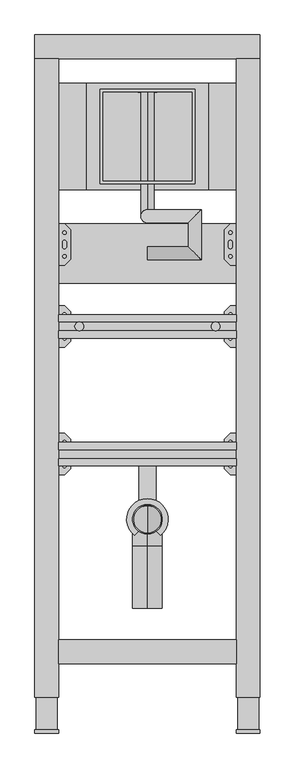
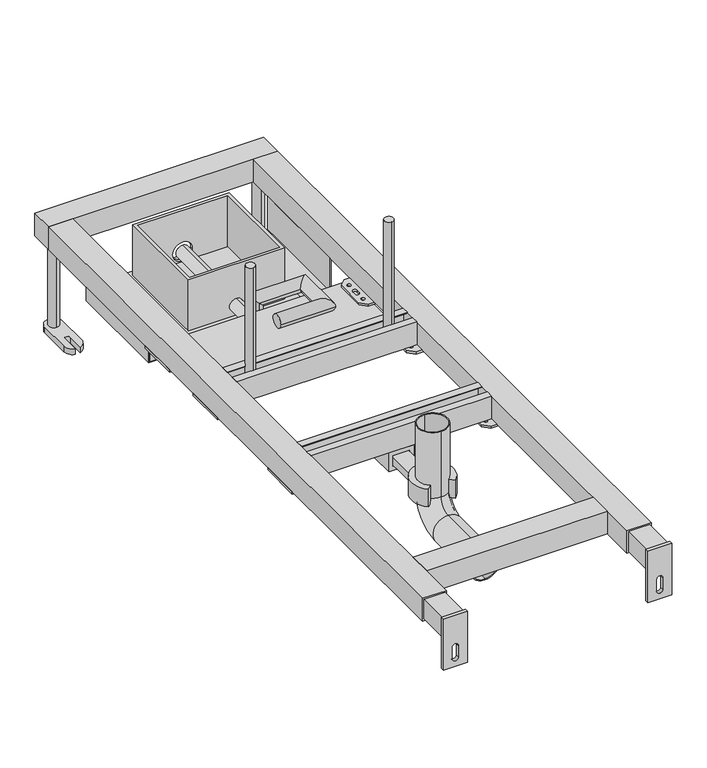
"""IFC4 building model written with IfcOpenShell, lengths in millimetres: flow terminal geometry, LIV-FIX UR MECH. PL : LIV-FIX UR MECH. PL."""

from ifc_helpers import new_model, si_unit, point, frame, frame_2d, origin, origin_with_axes, place, context, project, spatial, polyline, circle_curve, ellipse_curve, trimmed, segment, composite_curve, outline, extrude, source, transform, mapped, element, save
from ifc_brep_helpers import plane_surface, cylinder_surface, revolved_surface, advanced_brep


def flow_terminal_bfc678a2(model_context):
    return source(origin(), model_context, "Body", "SolidModel", [
        advanced_brep(
        [(0.0, 797.0, 167.378088), (0.0, 819.0, 167.378088), (91.0, 797.0, 167.378088), (69.0, 819.0, 167.378088), (91.0, 881.5546816, 167.378088), (69.0, 859.5546816, 167.378088), (0.0, 881.5546816, 167.378088), (0.0, 859.5546816, 167.378088), (0.0, 881.5546816, 135.5), (0.0, 859.5546816, 113.5), (0.0, 1079.85, 135.5), (0.0, 1079.85, 113.5)],
        [
            (0, 1, circle_curve(frame((0.0, 808.0, 167.378088), z_axis=(-1.0, 0.0, 0.0), x_axis=(0.0, 1.0, 0.0)), 11.0)),
            (1, 0, circle_curve(frame((0.0, 808.0, 167.378088), z_axis=(-1.0, 0.0, 0.0), x_axis=(0.0, 1.0, 0.0)), 11.0)),
            (0, 2),
            (2, 3, ellipse_curve(frame((80.0, 808.0, 167.378088), z_axis=(-0.7071067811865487, -0.7071067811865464, 0.0), x_axis=(-0.7071067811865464, 0.7071067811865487, 0.0)), 15.5563492, 11.0)),
            (3, 1),
            (3, 2, ellipse_curve(frame((80.0, 808.0, 167.378088), z_axis=(-0.7071067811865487, -0.7071067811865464, 0.0), x_axis=(-0.7071067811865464, 0.7071067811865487, 0.0)), 15.5563492, 11.0)),
            (2, 4),
            (4, 5, ellipse_curve(frame((80.0, 870.5546816, 167.378088), z_axis=(0.7071067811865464, -0.7071067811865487, 0.0), x_axis=(-0.7071067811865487, -0.7071067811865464, 0.0)), 15.5563492, 11.0)),
            (5, 3),
            (5, 4, ellipse_curve(frame((80.0, 870.5546816, 167.378088), z_axis=(0.7071067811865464, -0.7071067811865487, 0.0), x_axis=(-0.7071067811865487, -0.7071067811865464, 0.0)), 15.5563492, 11.0)),
            (4, 6),
            (6, 7, ellipse_curve(frame((0.0, 870.5546816, 167.378088), z_axis=(0.7071067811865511, 0.0, 0.7071067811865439), x_axis=(0.7071067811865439, 0.0, -0.7071067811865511)), 15.5563492, 11.0)),
            (7, 5),
            (7, 6, ellipse_curve(frame((0.0, 870.5546816, 167.378088), z_axis=(0.7071067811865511, 0.0, 0.7071067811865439), x_axis=(0.7071067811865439, 0.0, -0.7071067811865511)), 15.5563492, 11.0)),
            (6, 8),
            (8, 9, ellipse_curve(frame((0.0, 870.5546816, 124.5), z_axis=(0.0, -0.7071067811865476, 0.7071067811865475), x_axis=(0.0, 0.7071067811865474, 0.7071067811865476)), 15.5563492, 11.0)),
            (9, 7),
            (9, 8, ellipse_curve(frame((0.0, 870.5546816, 124.5), z_axis=(0.0, -0.7071067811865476, 0.7071067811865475), x_axis=(0.0, 0.7071067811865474, 0.7071067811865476)), 15.5563492, 11.0)),
            (10, 11, circle_curve(frame((0.0, 1079.85, 124.5), z_axis=(0.0, 1.0, 0.0), x_axis=(0.0, 0.0, -1.0)), 11.0)),
            (11, 10, circle_curve(frame((0.0, 1079.85, 124.5), z_axis=(0.0, 1.0, 0.0), x_axis=(0.0, 0.0, -1.0)), 11.0)),
            (8, 10),
            (11, 9),
        ],
        [
            plane_surface(frame((0.0, 808.0, 156.378088), z_axis=(-1.0, 0.0, 0.0), x_axis=(0.0, 1.0, 0.0))),
            cylinder_surface(frame((0.0, 808.0, 167.378088), z_axis=(-1.0, 0.0, 0.0), x_axis=(0.0, 1.0, 0.0)), 11.0),
            cylinder_surface(frame((80.0, 808.0, 167.378088), z_axis=(0.0, -1.0, 0.0), x_axis=(-1.0, 0.0, 0.0)), 11.0),
            cylinder_surface(frame((80.0, 870.5546816, 167.378088), z_axis=(1.0, 0.0, 0.0), x_axis=(0.0, -1.0, 0.0)), 11.0),
            cylinder_surface(frame((0.0, 870.5546816, 167.378088), z_axis=(0.0, 0.0, 1.0), x_axis=(0.0, -1.0, 0.0)), 11.0),
            plane_surface(frame((-11.0, 1079.85, 124.5), z_axis=(0.0, 1.0, 0.0), x_axis=(0.0, 0.0, 1.0))),
            cylinder_surface(frame((0.0, 870.5546816, 124.5), z_axis=(0.0, -1.0, 0.0), x_axis=(0.0, 0.0, -1.0)), 11.0),
        ],
        [
            (0, [[1, 2]]),
            (1, [[-1, 3, 4, 5]]),
            (1, [[-2, -5, 6, -3]]),
            (2, [[-4, 7, 8, 9]]),
            (2, [[-6, -9, 10, -7]]),
            (3, [[-8, 11, 12, 13]]),
            (3, [[-10, -13, 14, -11]]),
            (4, [[-12, 15, 16, 17]]),
            (4, [[-14, -17, 18, -15]]),
            (5, [[19, 20]]),
            (6, [[-16, 21, -20, 22]]),
            (6, [[-18, -22, -19, -21]]),
        ],
    ),
        extrude(outline(polyline([(102.4676142, 1095.0), (102.4676142, 915.0), (-102.5323858, 915.0), (-102.5323858, 1095.0), (102.4676142, 1095.0)])), frame((0.0, 0.0, 101.5), z_axis=(0.0, 0.0, 1.0), x_axis=(1.0, 0.0, 0.0)), (0.0, 0.0, 1.0), 5.0),
        advanced_brep(
        [(-79.85, 1084.85, 196.5), (-79.85, 925.15, 196.5), (79.85, 925.15, 196.5), (79.85, 1084.85, 196.5), (74.85, 1079.85, 196.5), (74.85, 930.15, 196.5), (-74.85, 930.15, 196.5), (-74.85, 1079.85, 196.5), (-79.85, 1084.85, 101.5), (79.85, 1084.85, 101.5), (79.85, 925.15, 101.5), (-79.85, 925.15, 101.5), (74.85, 1079.85, 101.5), (-74.85, 1079.85, 101.5), (-74.85, 930.15, 101.5), (74.85, 930.15, 101.5), (11.0, 930.15, 124.5), (-11.0, 930.15, 124.5), (-16.25, 1079.85, 124.5), (16.25, 1079.85, 124.5), (-11.0, 925.15, 124.5), (11.0, 925.15, 124.5), (16.25, 1084.85, 124.5), (-16.25, 1084.85, 124.5)],
        [
            (0, 1),
            (1, 2),
            (2, 3),
            (3, 0),
            (4, 5),
            (5, 6),
            (6, 7),
            (7, 4),
            (8, 9),
            (9, 10),
            (10, 11),
            (11, 8),
            (12, 13),
            (13, 14),
            (14, 15),
            (15, 12),
            (4, 12),
            (15, 5),
            (14, 6),
            (16, 17, circle_curve(frame((0.0, 930.15, 124.5), z_axis=(0.0, -1.0, 0.0), x_axis=(1.0, 0.0, 0.0)), 11.0)),
            (17, 16, circle_curve(frame((0.0, 930.15, 124.5), z_axis=(0.0, -1.0, 0.0), x_axis=(1.0, 0.0, 0.0)), 11.0)),
            (13, 7),
            (18, 19, circle_curve(frame((0.0, 1079.85, 124.5), z_axis=(0.0, 1.0, 0.0), x_axis=(-1.0, 0.0, 0.0)), 16.25)),
            (19, 18, circle_curve(frame((0.0, 1079.85, 124.5), z_axis=(0.0, 1.0, 0.0), x_axis=(-1.0, 0.0, 0.0)), 16.25)),
            (0, 8),
            (11, 1),
            (10, 2),
            (20, 21, circle_curve(frame((0.0, 925.15, 124.5), z_axis=(0.0, 1.0, 0.0), x_axis=(1.0, 0.0, 0.0)), 11.0)),
            (21, 20, circle_curve(frame((0.0, 925.15, 124.5), z_axis=(0.0, 1.0, 0.0), x_axis=(1.0, 0.0, 0.0)), 11.0)),
            (9, 3),
            (22, 23, circle_curve(frame((0.0, 1084.85, 124.5), z_axis=(0.0, -1.0, 0.0), x_axis=(-1.0, 0.0, 0.0)), 16.25)),
            (23, 22, circle_curve(frame((0.0, 1084.85, 124.5), z_axis=(0.0, -1.0, 0.0), x_axis=(-1.0, 0.0, 0.0)), 16.25)),
            (22, 19),
            (18, 23),
            (20, 17),
            (16, 21),
        ],
        [
            plane_surface(frame((74.85, 1079.85, 196.5), z_axis=(0.0, 0.0, 1.0), x_axis=(0.0, -1.0, 0.0))),
            plane_surface(frame((74.85, 1079.85, 101.5), z_axis=(0.0, 0.0, -1.0), x_axis=(0.0, 1.0, 0.0))),
            plane_surface(frame((74.85, 1079.85, 196.5), z_axis=(-1.0, 0.0, 0.0), x_axis=(0.0, 0.0, -1.0))),
            plane_surface(frame((74.85, 930.15, 196.5), z_axis=(0.0, 1.0, 0.0), x_axis=(0.0, 0.0, -1.0))),
            plane_surface(frame((-74.85, 930.15, 196.5), z_axis=(1.0, 0.0, 0.0), x_axis=(0.0, 0.0, -1.0))),
            plane_surface(frame((-74.85, 1079.85, 196.5), z_axis=(0.0, -1.0, 0.0), x_axis=(0.0, 0.0, -1.0))),
            plane_surface(frame((-79.85, 1084.85, 196.5), z_axis=(-1.0, 0.0, 0.0), x_axis=(0.0, 0.0, -1.0))),
            plane_surface(frame((-79.85, 925.15, 196.5), z_axis=(0.0, -1.0, 0.0), x_axis=(0.0, 0.0, -1.0))),
            plane_surface(frame((79.85, 925.15, 196.5), z_axis=(1.0, 0.0, 0.0), x_axis=(0.0, 0.0, -1.0))),
            plane_surface(frame((79.85, 1084.85, 196.5), z_axis=(0.0, 1.0, 0.0), x_axis=(0.0, 0.0, -1.0))),
            revolved_surface(polyline([(-16.25, 1079.85, 124.5), (-16.25, 1084.85, 124.5)]), (0.0, 1084.85, 124.5), (0.0, -1.0, 0.0)),
            revolved_surface(polyline([(11.0, 930.15, 124.5), (11.0, 925.15, 124.5)]), (0.0, 925.15, 124.5), (0.0, 1.0, 0.0)),
        ],
        [
            (0, [[1, 2, 3, 4], [5, 6, 7, 8]]),
            (1, [[9, 10, 11, 12], [13, 14, 15, 16]]),
            (2, [[-5, 17, -16, 18]]),
            (3, [[-6, -18, -15, 19], [20, 21]]),
            (4, [[-7, -19, -14, 22]]),
            (5, [[-8, -22, -13, -17], [23, 24]]),
            (6, [[-1, 25, -12, 26]]),
            (7, [[-2, -26, -11, 27], [28, 29]]),
            (8, [[-3, -27, -10, 30]]),
            (9, [[-4, -30, -9, -25], [31, 32]]),
            (10, [[33, -23, 34, -31]]),
            (10, [[-33, -32, -34, -24]]),
            (11, [[35, -20, 36, -28]]),
            (11, [[-35, -29, -36, -21]]),
        ],
    ),
        extrude(outline(composite_curve([segment(trimmed(circle_curve(frame_2d((-115.0, 685.0)), 7.5154833), [point((-115.0, 692.5154833))], [point((-115.0, 677.4845167))], False, "CARTESIAN"), True, "CONTINUOUS"), segment(trimmed(circle_curve(frame_2d((-115.0, 685.0)), 7.5154833), [point((-115.0, 677.4845167))], [point((-115.0, 692.5154833))], False, "CARTESIAN"), True, "CONTINUOUS")], self_intersect=False)), frame((0.0, 0.0, 180.0), z_axis=(0.0, 0.0, 1.0), x_axis=(1.0, 0.0, 0.0)), (0.0, 0.0, 1.0), 200.0),
        extrude(outline(composite_curve([segment(trimmed(circle_curve(frame_2d((115.0, 685.0)), 7.5154833), [point((115.0, 692.5154833))], [point((115.0, 677.4845167))], False, "CARTESIAN"), True, "CONTINUOUS"), segment(trimmed(circle_curve(frame_2d((115.0, 685.0)), 7.5154833), [point((115.0, 677.4845167))], [point((115.0, 692.5154833))], False, "CARTESIAN"), True, "CONTINUOUS")], self_intersect=False)), frame((0.0, 0.0, 180.0), z_axis=(0.0, 0.0, 1.0), x_axis=(1.0, 0.0, 0.0)), (0.0, 0.0, 1.0), 200.0),
        extrude(outline(polyline([(150.0, 1095.0), (150.0, 915.0), (-150.0, 915.0), (-150.0, 1095.0), (150.0, 1095.0)])), frame((0.0, 0.0, 83.5), z_axis=(0.0, 0.0, 1.0), x_axis=(1.0, 0.0, 0.0)), (0.0, 0.0, 1.0), 18.0),
        extrude(outline(polyline([(160.0, 185.0), (160.0, 150.0), (83.5, 150.0), (83.5, 123.5), (82.0, 123.5), (82.0, 151.5), (158.5, 151.5), (158.5, 185.0), (160.0, 185.0)])), frame((0.0, 915.0, 0.0), z_axis=(0.0, 1.0, 0.0), x_axis=(0.0, 0.0, 1.0)), (0.0, 0.0, 1.0), 180.0),
        extrude(outline(polyline([(160.0, -185.0), (158.5, -185.0), (158.5, -151.5), (82.0, -151.5), (82.0, -123.5), (83.5, -123.5), (83.5, -150.0), (160.0, -150.0), (160.0, -185.0)])), frame((0.0, 915.0, 0.0), z_axis=(0.0, 1.0, 0.0), x_axis=(0.0, 0.0, 1.0)), (0.0, 0.0, 1.0), 180.0),
        extrude(outline(polyline([(665.0, 200.0), (677.4845167, 200.0), (677.4845167, 198.5), (666.5, 198.5), (666.5, 161.5), (703.5, 161.5), (703.5, 198.5), (692.5154833, 198.5), (692.5154833, 200.0), (705.0, 200.0), (705.0, 160.0), (665.0, 160.0), (665.0, 200.0)])), frame((-150.0, 0.0, 0.0), z_axis=(1.0, 0.0, 0.0), x_axis=(0.0, 1.0, 0.0)), (0.0, 0.0, 1.0), 300.0),
        extrude(outline(polyline([(140.0, 650.0), (130.0, 660.0), (130.0, 710.0), (140.0, 720.0), (190.0, 720.0), (190.0, 650.0), (140.0, 650.0)]), holes=[composite_curve([segment(trimmed(circle_curve(frame_2d((175.0, 685.0)), 4.5), [point((175.0, 680.5))], [point((175.0, 689.5))], True, "CARTESIAN"), True, "CONTINUOUS"), segment(trimmed(circle_curve(frame_2d((175.0, 685.0)), 4.5), [point((175.0, 689.5))], [point((175.0, 680.5))], True, "CARTESIAN"), True, "CONTINUOUS")], self_intersect=False), composite_curve([segment(trimmed(circle_curve(frame_2d((175.0, 705.0)), 4.5), [point((175.0, 700.5))], [point((175.0, 709.5))], True, "CARTESIAN"), True, "CONTINUOUS"), segment(trimmed(circle_curve(frame_2d((175.0, 705.0)), 4.5), [point((175.0, 709.5))], [point((175.0, 700.5))], True, "CARTESIAN"), True, "CONTINUOUS")], self_intersect=False), composite_curve([segment(trimmed(circle_curve(frame_2d((175.0, 665.0)), 4.5), [point((175.0, 660.5))], [point((175.0, 669.5))], True, "CARTESIAN"), True, "CONTINUOUS"), segment(trimmed(circle_curve(frame_2d((175.0, 665.0)), 4.5), [point((175.0, 669.5))], [point((175.0, 660.5))], True, "CARTESIAN"), True, "CONTINUOUS")], self_intersect=False), composite_curve([segment(trimmed(circle_curve(frame_2d((140.0, 705.0)), 2.9795218), [point((140.0, 702.0204782))], [point((140.0, 707.9795218))], True, "CARTESIAN"), True, "CONTINUOUS"), segment(trimmed(circle_curve(frame_2d((140.0, 705.0)), 2.9795218), [point((140.0, 707.9795218))], [point((140.0, 702.0204782))], True, "CARTESIAN"), True, "CONTINUOUS")], self_intersect=False), composite_curve([segment(trimmed(circle_curve(frame_2d((140.0, 665.0)), 2.9795218), [point((140.0, 662.0204782))], [point((140.0, 667.9795218))], True, "CARTESIAN"), True, "CONTINUOUS"), segment(trimmed(circle_curve(frame_2d((140.0, 665.0)), 2.9795218), [point((140.0, 667.9795218))], [point((140.0, 662.0204782))], True, "CARTESIAN"), True, "CONTINUOUS")], self_intersect=False), composite_curve([segment(trimmed(circle_curve(frame_2d((140.0, 688.5)), 3.5), [point((143.5, 688.5))], [point((136.5, 688.5))], True, "CARTESIAN"), True, "CONTINUOUS"), segment(polyline([(136.5, 688.5), (136.5, 681.5)]), True, "CONTINUOUS"), segment(trimmed(circle_curve(frame_2d((140.0, 681.5)), 3.5), [point((136.5, 681.5))], [point((143.5, 681.5))], True, "CARTESIAN"), True, "CONTINUOUS"), segment(polyline([(143.5, 681.5), (143.5, 688.5)]), True, "CONTINUOUS")], self_intersect=False)]), frame((0.0, 0.0, 156.0), z_axis=(0.0, 0.0, 1.0), x_axis=(1.0, 0.0, 0.0)), (0.0, 0.0, 1.0), 4.0),
        extrude(outline(polyline([(-140.0, 650.0), (-190.0, 650.0), (-190.0, 720.0), (-140.0, 720.0), (-130.0, 710.0), (-130.0, 660.0), (-140.0, 650.0)]), holes=[composite_curve([segment(trimmed(circle_curve(frame_2d((-175.0, 685.0)), 4.5), [point((-175.0, 680.5))], [point((-175.0, 689.5))], True, "CARTESIAN"), True, "CONTINUOUS"), segment(trimmed(circle_curve(frame_2d((-175.0, 685.0)), 4.5), [point((-175.0, 689.5))], [point((-175.0, 680.5))], True, "CARTESIAN"), True, "CONTINUOUS")], self_intersect=False), composite_curve([segment(trimmed(circle_curve(frame_2d((-175.0, 705.0)), 4.5), [point((-175.0, 700.5))], [point((-175.0, 709.5))], True, "CARTESIAN"), True, "CONTINUOUS"), segment(trimmed(circle_curve(frame_2d((-175.0, 705.0)), 4.5), [point((-175.0, 709.5))], [point((-175.0, 700.5))], True, "CARTESIAN"), True, "CONTINUOUS")], self_intersect=False), composite_curve([segment(trimmed(circle_curve(frame_2d((-175.0, 665.0)), 4.5), [point((-175.0, 660.5))], [point((-175.0, 669.5))], True, "CARTESIAN"), True, "CONTINUOUS"), segment(trimmed(circle_curve(frame_2d((-175.0, 665.0)), 4.5), [point((-175.0, 669.5))], [point((-175.0, 660.5))], True, "CARTESIAN"), True, "CONTINUOUS")], self_intersect=False), composite_curve([segment(trimmed(circle_curve(frame_2d((-140.0, 705.0)), 2.9795218), [point((-140.0, 702.0204782))], [point((-140.0, 707.9795218))], True, "CARTESIAN"), True, "CONTINUOUS"), segment(trimmed(circle_curve(frame_2d((-140.0, 705.0)), 2.9795218), [point((-140.0, 707.9795218))], [point((-140.0, 702.0204782))], True, "CARTESIAN"), True, "CONTINUOUS")], self_intersect=False), composite_curve([segment(trimmed(circle_curve(frame_2d((-140.0, 665.0)), 2.9795218), [point((-140.0, 662.0204782))], [point((-140.0, 667.9795218))], True, "CARTESIAN"), True, "CONTINUOUS"), segment(trimmed(circle_curve(frame_2d((-140.0, 665.0)), 2.9795218), [point((-140.0, 667.9795218))], [point((-140.0, 662.0204782))], True, "CARTESIAN"), True, "CONTINUOUS")], self_intersect=False), composite_curve([segment(polyline([(-143.5, 688.5), (-143.5, 681.5)]), True, "CONTINUOUS"), segment(trimmed(circle_curve(frame_2d((-140.0, 681.5)), 3.5), [point((-143.5, 681.5))], [point((-136.5, 681.5))], True, "CARTESIAN"), True, "CONTINUOUS"), segment(polyline([(-136.5, 681.5), (-136.5, 688.5)]), True, "CONTINUOUS"), segment(trimmed(circle_curve(frame_2d((-140.0, 688.5)), 3.5), [point((-136.5, 688.5))], [point((-143.5, 688.5))], True, "CARTESIAN"), True, "CONTINUOUS")], self_intersect=False)]), frame((0.0, 0.0, 156.0), z_axis=(0.0, 0.0, 1.0), x_axis=(1.0, 0.0, 0.0)), (0.0, 0.0, 1.0), 4.0),
        extrude(outline(polyline([(150.0, 858.0), (150.0, 758.0), (-150.0, 758.0), (-150.0, 858.0), (150.0, 858.0)])), frame((0.0, 0.0, 138.0), z_axis=(0.0, 0.0, 1.0), x_axis=(1.0, 0.0, 0.0)), (0.0, 0.0, 1.0), 18.0),
        advanced_brep(
        [(-14.0, 490.0, 136.5), (-14.0, 490.0, 150.0), (14.0, 490.0, 150.0), (14.0, 490.0, 136.5), (14.0, 392.0780299, 136.5), (22.1922786, 332.9352116, 136.5), (15.0727332, 340.0547571, 136.5), (-15.0727332, 340.0547571, 136.5), (-22.1922786, 332.9352116, 136.5), (-14.0, 392.0780299, 136.5), (14.0, 392.0780299, 150.0), (-14.0, 392.0780299, 150.0), (0.0, 395.0, 150.0), (15.0727332, 340.0547571, 167.5), (22.1922786, 332.9352116, 167.5), (0.0, 395.0, 167.5), (-22.1922786, 332.9352116, 167.5), (-15.0727332, 340.0547571, 167.5)],
        [
            (0, 1),
            (1, 2),
            (2, 3),
            (3, 0),
            (3, 4),
            (4, 5, circle_curve(frame((0.0, 360.0, 136.5), z_axis=(0.0, 0.0, -1.0), x_axis=(0.0, -1.0, 0.0)), 35.0)),
            (5, 6),
            (6, 7, circle_curve(frame((0.0, 360.0, 136.5), z_axis=(0.0, 0.0, 1.0), x_axis=(0.0, -1.0, 0.0)), 25.0)),
            (7, 8),
            (8, 9, circle_curve(frame((0.0, 360.0, 136.5), z_axis=(0.0, 0.0, -1.0), x_axis=(0.0, -1.0, 0.0)), 35.0)),
            (9, 0),
            (2, 10),
            (10, 4),
            (1, 11),
            (11, 12, circle_curve(frame((0.0, 360.0, 150.0), z_axis=(0.0, 0.0, -1.0), x_axis=(0.0, -1.0, 0.0)), 35.0)),
            (12, 10, circle_curve(frame((0.0, 360.0, 150.0), z_axis=(0.0, 0.0, -1.0), x_axis=(0.0, -1.0, 0.0)), 35.0)),
            (9, 11),
            (13, 14),
            (14, 15, circle_curve(frame((0.0, 360.0, 167.5), z_axis=(0.0, 0.0, 1.0), x_axis=(0.0, -1.0, 0.0)), 35.0)),
            (15, 16, circle_curve(frame((0.0, 360.0, 167.5), z_axis=(0.0, 0.0, 1.0), x_axis=(0.0, -1.0, 0.0)), 35.0)),
            (16, 17),
            (17, 13, circle_curve(frame((0.0, 360.0, 167.5), z_axis=(0.0, 0.0, -1.0), x_axis=(0.0, -1.0, 0.0)), 25.0)),
            (17, 7),
            (6, 13),
            (16, 8),
            (15, 12),
            (14, 5),
        ],
        [
            plane_surface(frame((-14.0, 490.0, 136.5), z_axis=(0.0, 1.0, 0.0), x_axis=(0.0, 0.0, 1.0))),
            plane_surface(frame((14.0, 490.0, 136.5), z_axis=(0.0, 0.0, -1.0), x_axis=(0.0, -1.0, 0.0))),
            plane_surface(frame((14.0, 490.0, 150.0), z_axis=(1.0, 0.0, 0.0), x_axis=(0.0, -1.0, 0.0))),
            plane_surface(frame((-14.0, 490.0, 150.0), z_axis=(0.0, 0.0, 1.0), x_axis=(0.0, -1.0, 0.0))),
            plane_surface(frame((-14.0, 490.0, 136.5), z_axis=(-1.0, 0.0, 0.0), x_axis=(0.0, -1.0, 0.0))),
            plane_surface(frame((0.0, 335.0, 167.5), z_axis=(0.0, 0.0, 1.0), x_axis=(-1.0, 0.0, 0.0))),
            revolved_surface(polyline([(0.0, 335.0, 167.5), (0.0, 335.0, 136.5)]), (0.0, 360.0, 167.5), (0.0, 0.0, 1.0)),
            plane_surface(frame((-15.0727332, 340.0547571, 136.5), z_axis=(0.7071067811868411, -0.707106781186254, 0.0), x_axis=(0.0, 0.0, 1.0))),
            cylinder_surface(frame((0.0, 360.0, 167.5), z_axis=(0.0, 0.0, -1.0), x_axis=(0.0, -1.0, 0.0)), 35.0),
            plane_surface(frame((22.1922786, 332.9352116, 136.5), z_axis=(-0.7071067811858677, -0.7071067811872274, 0.0), x_axis=(0.0, 0.0, 1.0))),
        ],
        [
            (0, [[1, 2, 3, 4]]),
            (1, [[-4, 5, 6, 7, 8, 9, 10, 11]]),
            (2, [[-3, 12, 13, -5]]),
            (3, [[-2, 14, 15, 16, -12]]),
            (4, [[-1, -11, 17, -14]]),
            (5, [[18, 19, 20, 21, 22]]),
            (6, [[-22, 23, -8, 24]]),
            (7, [[-21, 25, -9, -23]]),
            (8, [[-20, 26, -15, -17, -10, -25]]),
            (8, [[-19, 27, -6, -13, -16, -26]]),
            (9, [[-18, -24, -7, -27]]),
        ],
    ),
        extrude(outline(polyline([(450.0, 200.0), (462.4845167, 200.0), (462.4845167, 198.5), (451.5, 198.5), (451.5, 161.5), (488.5, 161.5), (488.5, 198.5), (477.5154833, 198.5), (477.5154833, 200.0), (490.0, 200.0), (490.0, 160.0), (450.0, 160.0), (450.0, 200.0)])), frame((-150.0, 0.0, 0.0), z_axis=(1.0, 0.0, 0.0), x_axis=(0.0, 1.0, 0.0)), (0.0, 0.0, 1.0), 300.0),
        extrude(outline(polyline([(140.0, 788.0), (130.0, 798.0), (130.0, 848.0), (140.0, 858.0), (190.0, 858.0), (190.0, 788.0), (140.0, 788.0)]), holes=[composite_curve([segment(trimmed(circle_curve(frame_2d((175.0, 823.0)), 4.5), [point((175.0, 818.5))], [point((175.0, 827.5))], True, "CARTESIAN"), True, "CONTINUOUS"), segment(trimmed(circle_curve(frame_2d((175.0, 823.0)), 4.5), [point((175.0, 827.5))], [point((175.0, 818.5))], True, "CARTESIAN"), True, "CONTINUOUS")], self_intersect=False), composite_curve([segment(trimmed(circle_curve(frame_2d((175.0, 843.0)), 4.5), [point((175.0, 838.5))], [point((175.0, 847.5))], True, "CARTESIAN"), True, "CONTINUOUS"), segment(trimmed(circle_curve(frame_2d((175.0, 843.0)), 4.5), [point((175.0, 847.5))], [point((175.0, 838.5))], True, "CARTESIAN"), True, "CONTINUOUS")], self_intersect=False), composite_curve([segment(trimmed(circle_curve(frame_2d((175.0, 803.0)), 4.5), [point((175.0, 798.5))], [point((175.0, 807.5))], True, "CARTESIAN"), True, "CONTINUOUS"), segment(trimmed(circle_curve(frame_2d((175.0, 803.0)), 4.5), [point((175.0, 807.5))], [point((175.0, 798.5))], True, "CARTESIAN"), True, "CONTINUOUS")], self_intersect=False), composite_curve([segment(trimmed(circle_curve(frame_2d((140.0, 843.0)), 2.9795218), [point((140.0, 840.0204782))], [point((140.0, 845.9795218))], True, "CARTESIAN"), True, "CONTINUOUS"), segment(trimmed(circle_curve(frame_2d((140.0, 843.0)), 2.9795218), [point((140.0, 845.9795218))], [point((140.0, 840.0204782))], True, "CARTESIAN"), True, "CONTINUOUS")], self_intersect=False), composite_curve([segment(trimmed(circle_curve(frame_2d((140.0, 803.0)), 2.9795218), [point((140.0, 800.0204782))], [point((140.0, 805.9795218))], True, "CARTESIAN"), True, "CONTINUOUS"), segment(trimmed(circle_curve(frame_2d((140.0, 803.0)), 2.9795218), [point((140.0, 805.9795218))], [point((140.0, 800.0204782))], True, "CARTESIAN"), True, "CONTINUOUS")], self_intersect=False), composite_curve([segment(trimmed(circle_curve(frame_2d((140.0, 826.5)), 3.5), [point((143.5, 826.5))], [point((136.5, 826.5))], True, "CARTESIAN"), True, "CONTINUOUS"), segment(polyline([(136.5, 826.5), (136.5, 819.5)]), True, "CONTINUOUS"), segment(trimmed(circle_curve(frame_2d((140.0, 819.5)), 3.5), [point((136.5, 819.5))], [point((143.5, 819.5))], True, "CARTESIAN"), True, "CONTINUOUS"), segment(polyline([(143.5, 819.5), (143.5, 826.5)]), True, "CONTINUOUS")], self_intersect=False)]), frame((0.0, 0.0, 156.0), z_axis=(0.0, 0.0, 1.0), x_axis=(1.0, 0.0, 0.0)), (0.0, 0.0, 1.0), 4.0),
        extrude(outline(polyline([(-140.0, 788.0), (-190.0, 788.0), (-190.0, 858.0), (-140.0, 858.0), (-130.0, 848.0), (-130.0, 798.0), (-140.0, 788.0)]), holes=[composite_curve([segment(trimmed(circle_curve(frame_2d((-175.0, 823.0)), 4.5), [point((-175.0, 818.5))], [point((-175.0, 827.5))], True, "CARTESIAN"), True, "CONTINUOUS"), segment(trimmed(circle_curve(frame_2d((-175.0, 823.0)), 4.5), [point((-175.0, 827.5))], [point((-175.0, 818.5))], True, "CARTESIAN"), True, "CONTINUOUS")], self_intersect=False), composite_curve([segment(trimmed(circle_curve(frame_2d((-175.0, 843.0)), 4.5), [point((-175.0, 838.5))], [point((-175.0, 847.5))], True, "CARTESIAN"), True, "CONTINUOUS"), segment(trimmed(circle_curve(frame_2d((-175.0, 843.0)), 4.5), [point((-175.0, 847.5))], [point((-175.0, 838.5))], True, "CARTESIAN"), True, "CONTINUOUS")], self_intersect=False), composite_curve([segment(trimmed(circle_curve(frame_2d((-175.0, 803.0)), 4.5), [point((-175.0, 798.5))], [point((-175.0, 807.5))], True, "CARTESIAN"), True, "CONTINUOUS"), segment(trimmed(circle_curve(frame_2d((-175.0, 803.0)), 4.5), [point((-175.0, 807.5))], [point((-175.0, 798.5))], True, "CARTESIAN"), True, "CONTINUOUS")], self_intersect=False), composite_curve([segment(trimmed(circle_curve(frame_2d((-140.0, 843.0)), 2.9795218), [point((-140.0, 840.0204782))], [point((-140.0, 845.9795218))], True, "CARTESIAN"), True, "CONTINUOUS"), segment(trimmed(circle_curve(frame_2d((-140.0, 843.0)), 2.9795218), [point((-140.0, 845.9795218))], [point((-140.0, 840.0204782))], True, "CARTESIAN"), True, "CONTINUOUS")], self_intersect=False), composite_curve([segment(trimmed(circle_curve(frame_2d((-140.0, 803.0)), 2.9795218), [point((-140.0, 800.0204782))], [point((-140.0, 805.9795218))], True, "CARTESIAN"), True, "CONTINUOUS"), segment(trimmed(circle_curve(frame_2d((-140.0, 803.0)), 2.9795218), [point((-140.0, 805.9795218))], [point((-140.0, 800.0204782))], True, "CARTESIAN"), True, "CONTINUOUS")], self_intersect=False), composite_curve([segment(polyline([(-143.5, 826.5), (-143.5, 819.5)]), True, "CONTINUOUS"), segment(trimmed(circle_curve(frame_2d((-140.0, 819.5)), 3.5), [point((-143.5, 819.5))], [point((-136.5, 819.5))], True, "CARTESIAN"), True, "CONTINUOUS"), segment(polyline([(-136.5, 819.5), (-136.5, 826.5)]), True, "CONTINUOUS"), segment(trimmed(circle_curve(frame_2d((-140.0, 826.5)), 3.5), [point((-136.5, 826.5))], [point((-143.5, 826.5))], True, "CARTESIAN"), True, "CONTINUOUS")], self_intersect=False)]), frame((0.0, 0.0, 156.0), z_axis=(0.0, 0.0, 1.0), x_axis=(1.0, 0.0, 0.0)), (0.0, 0.0, 1.0), 4.0),
        advanced_brep(
        [(0.0, 210.0, 75.0), (0.0, 210.0, 125.0), (0.0, 210.0, 77.0), (0.0, 210.0, 123.0), (0.0, 315.0, 75.0), (0.0, 315.0, 125.0), (0.0, 385.0, 260.0), (0.0, 335.0, 260.0), (0.0, 383.0, 260.0), (0.0, 337.0, 260.0), (0.0, 335.0, 145.0), (0.0, 385.0, 145.0), (0.0, 315.0, 77.0), (0.0, 315.0, 123.0), (0.0, 337.0, 145.0), (0.0, 383.0, 145.0)],
        [
            (0, 1, circle_curve(frame((0.0, 210.0, 100.0), z_axis=(0.0, -1.0, 0.0), x_axis=(0.0, 0.0, 1.0)), 25.0)),
            (1, 0, circle_curve(frame((0.0, 210.0, 100.0), z_axis=(0.0, -1.0, 0.0), x_axis=(0.0, 0.0, 1.0)), 25.0)),
            (2, 3, circle_curve(frame((0.0, 210.0, 100.0), z_axis=(0.0, 1.0, 0.0), x_axis=(0.0, 0.0, 1.0)), 23.0)),
            (3, 2, circle_curve(frame((0.0, 210.0, 100.0), z_axis=(0.0, 1.0, 0.0), x_axis=(0.0, 0.0, 1.0)), 23.0)),
            (0, 4),
            (4, 5, circle_curve(frame((0.0, 315.0, 100.0), z_axis=(0.0, -1.0, 0.0), x_axis=(0.0, 0.0, 1.0)), 25.0)),
            (5, 1),
            (5, 4, circle_curve(frame((0.0, 315.0, 100.0), z_axis=(0.0, -1.0, 0.0), x_axis=(0.0, 0.0, 1.0)), 25.0)),
            (6, 7, circle_curve(frame((0.0, 360.0, 260.0), z_axis=(0.0, 0.0, 1.0), x_axis=(0.0, -1.0, 0.0)), 25.0)),
            (7, 6, circle_curve(frame((0.0, 360.0, 260.0), z_axis=(0.0, 0.0, 1.0), x_axis=(0.0, -1.0, 0.0)), 25.0)),
            (8, 9, circle_curve(frame((0.0, 360.0, 260.0), z_axis=(0.0, 0.0, -1.0), x_axis=(0.0, -1.0, 0.0)), 23.0)),
            (9, 8, circle_curve(frame((0.0, 360.0, 260.0), z_axis=(0.0, 0.0, -1.0), x_axis=(0.0, -1.0, 0.0)), 23.0)),
            (10, 11, circle_curve(frame((0.0, 360.0, 145.0), z_axis=(0.0, 0.0, 1.0), x_axis=(0.0, -1.0, 0.0)), 25.0)),
            (11, 6),
            (7, 10),
            (11, 10, circle_curve(frame((0.0, 360.0, 145.0), z_axis=(0.0, 0.0, 1.0), x_axis=(0.0, -1.0, 0.0)), 25.0)),
            (10, 5, circle_curve(frame((0.0, 315.0, 145.0), z_axis=(-1.0, 0.0, 0.0), x_axis=(0.0, 0.0, -1.0)), 20.0)),
            (4, 11, circle_curve(frame((0.0, 315.0, 145.0), z_axis=(1.0, 0.0, 0.0), x_axis=(0.0, 0.0, -1.0)), 70.0)),
            (2, 12),
            (12, 13, circle_curve(frame((0.0, 315.0, 100.0), z_axis=(0.0, 1.0, 0.0), x_axis=(0.0, 0.0, 1.0)), 23.0)),
            (13, 3),
            (13, 12, circle_curve(frame((0.0, 315.0, 100.0), z_axis=(0.0, 1.0, 0.0), x_axis=(0.0, 0.0, 1.0)), 23.0)),
            (14, 13, circle_curve(frame((0.0, 315.0, 145.0), z_axis=(-1.0, 0.0, 0.0), x_axis=(0.0, 0.0, -1.0)), 22.0)),
            (12, 15, circle_curve(frame((0.0, 315.0, 145.0), z_axis=(1.0, 0.0, 0.0), x_axis=(0.0, 0.0, -1.0)), 68.0)),
            (15, 14, circle_curve(frame((0.0, 360.0, 145.0), z_axis=(0.0, 0.0, 1.0), x_axis=(0.0, -1.0, 0.0)), 23.0)),
            (14, 15, circle_curve(frame((0.0, 360.0, 145.0), z_axis=(0.0, 0.0, 1.0), x_axis=(0.0, -1.0, 0.0)), 23.0)),
            (15, 8),
            (9, 14),
        ],
        [
            plane_surface(frame((0.0, 210.0, 100.0), z_axis=(0.0, -1.0, 0.0), x_axis=(1.0, 0.0, 0.0))),
            cylinder_surface(frame((0.0, 210.0, 100.0), z_axis=(0.0, -1.0, 0.0), x_axis=(0.0, 0.0, 1.0)), 25.0),
            plane_surface(frame((0.0, 360.0, 260.0), z_axis=(0.0, 0.0, 1.0), x_axis=(1.0, 0.0, 0.0))),
            cylinder_surface(frame((0.0, 360.0, 145.0), z_axis=(0.0, 0.0, -1.0), x_axis=(0.0, -1.0, 0.0)), 25.0),
            revolved_surface(trimmed(ellipse_curve(frame((0.0, 315.0, 100.0), z_axis=(0.0, -1.0, 0.0), x_axis=(0.0, 0.0, 1.0)), 25.0, 25.0), [point((0.0, 315.0, 75.0))], [point((0.0, 315.0, 125.0))], True, "CARTESIAN"), (0.0, 315.0, 145.0), (1.0, 0.0, 0.0)),
            revolved_surface(trimmed(ellipse_curve(frame((0.0, 315.0, 100.0), z_axis=(0.0, -1.0, 0.0), x_axis=(0.0, 0.0, 1.0)), 25.0, 25.0), [point((0.0, 315.0, 125.0))], [point((0.0, 315.0, 75.0))], True, "CARTESIAN"), (0.0, 315.0, 145.0), (1.0, 0.0, 0.0)),
            revolved_surface(polyline([(0.0, 315.0, 123.0), (0.0, 210.0, 123.0)]), (0.0, 210.0, 100.0), (0.0, 1.0, 0.0)),
            revolved_surface(trimmed(ellipse_curve(frame((0.0, 315.0, 100.0), z_axis=(0.0, 1.0, 0.0), x_axis=(0.0, 0.0, 1.0)), 23.0, 23.0), [point((0.0, 315.0, 77.0))], [point((0.0, 315.0, 123.0))], True, "CARTESIAN"), (0.0, 315.0, 145.0), (1.0, 0.0, 0.0)),
            revolved_surface(trimmed(ellipse_curve(frame((0.0, 315.0, 100.0), z_axis=(0.0, 1.0, 0.0), x_axis=(0.0, 0.0, 1.0)), 23.0, 23.0), [point((0.0, 315.0, 123.0))], [point((0.0, 315.0, 77.0))], True, "CARTESIAN"), (0.0, 315.0, 145.0), (1.0, 0.0, 0.0)),
            revolved_surface(polyline([(0.0, 337.0, 260.0), (0.0, 337.0, 145.0)]), (0.0, 360.0, 145.0), (0.0, 0.0, 1.0)),
        ],
        [
            (0, [[1, 2], [3, 4]]),
            (1, [[-1, 5, 6, 7]]),
            (1, [[-2, -7, 8, -5]]),
            (2, [[9, 10], [11, 12]]),
            (3, [[13, 14, -10, 15]]),
            (3, [[16, -15, -9, -14]]),
            (4, [[17, -6, 18, -13]]),
            (5, [[-18, -8, -17, -16]]),
            (6, [[-3, 19, 20, 21]]),
            (6, [[-4, -21, 22, -19]]),
            (7, [[23, -20, 24, 25]]),
            (8, [[-24, -22, -23, 26]]),
            (9, [[-25, 27, -12, 28]]),
            (9, [[-26, -28, -11, -27]]),
        ],
    ),
        extrude(outline(polyline([(160.0, 20.9285173), (160.0, -20.5714827), (126.5, -20.5714827), (126.5, 20.9285173), (160.0, 20.9285173)]), holes=[polyline([(152.5, 13.75), (134.0, 13.75), (134.0, -13.75), (152.5, -13.75), (152.5, 13.75)])]), frame((0.0, 450.0, 0.0), z_axis=(0.0, 1.0, 0.0), x_axis=(0.0, 0.0, 1.0)), (0.0, 0.0, 1.0), 40.0),
        extrude(outline(polyline([(140.0, 435.0), (130.0, 445.0), (130.0, 495.0), (140.0, 505.0), (190.0, 505.0), (190.0, 435.0), (140.0, 435.0)]), holes=[composite_curve([segment(trimmed(circle_curve(frame_2d((175.0, 470.0)), 4.5), [point((175.0, 465.5))], [point((175.0, 474.5))], True, "CARTESIAN"), True, "CONTINUOUS"), segment(trimmed(circle_curve(frame_2d((175.0, 470.0)), 4.5), [point((175.0, 474.5))], [point((175.0, 465.5))], True, "CARTESIAN"), True, "CONTINUOUS")], self_intersect=False), composite_curve([segment(trimmed(circle_curve(frame_2d((175.0, 490.0)), 4.5), [point((175.0, 485.5))], [point((175.0, 494.5))], True, "CARTESIAN"), True, "CONTINUOUS"), segment(trimmed(circle_curve(frame_2d((175.0, 490.0)), 4.5), [point((175.0, 494.5))], [point((175.0, 485.5))], True, "CARTESIAN"), True, "CONTINUOUS")], self_intersect=False), composite_curve([segment(trimmed(circle_curve(frame_2d((175.0, 450.0)), 4.5), [point((175.0, 445.5))], [point((175.0, 454.5))], True, "CARTESIAN"), True, "CONTINUOUS"), segment(trimmed(circle_curve(frame_2d((175.0, 450.0)), 4.5), [point((175.0, 454.5))], [point((175.0, 445.5))], True, "CARTESIAN"), True, "CONTINUOUS")], self_intersect=False), composite_curve([segment(trimmed(circle_curve(frame_2d((140.0, 490.0)), 2.9795218), [point((140.0, 487.0204782))], [point((140.0, 492.9795218))], True, "CARTESIAN"), True, "CONTINUOUS"), segment(trimmed(circle_curve(frame_2d((140.0, 490.0)), 2.9795218), [point((140.0, 492.9795218))], [point((140.0, 487.0204782))], True, "CARTESIAN"), True, "CONTINUOUS")], self_intersect=False), composite_curve([segment(trimmed(circle_curve(frame_2d((140.0, 450.0)), 2.9795218), [point((140.0, 447.0204782))], [point((140.0, 452.9795218))], True, "CARTESIAN"), True, "CONTINUOUS"), segment(trimmed(circle_curve(frame_2d((140.0, 450.0)), 2.9795218), [point((140.0, 452.9795218))], [point((140.0, 447.0204782))], True, "CARTESIAN"), True, "CONTINUOUS")], self_intersect=False), composite_curve([segment(trimmed(circle_curve(frame_2d((140.0, 473.5)), 3.5), [point((143.5, 473.5))], [point((136.5, 473.5))], True, "CARTESIAN"), True, "CONTINUOUS"), segment(polyline([(136.5, 473.5), (136.5, 466.5)]), True, "CONTINUOUS"), segment(trimmed(circle_curve(frame_2d((140.0, 466.5)), 3.5), [point((136.5, 466.5))], [point((143.5, 466.5))], True, "CARTESIAN"), True, "CONTINUOUS"), segment(polyline([(143.5, 466.5), (143.5, 473.5)]), True, "CONTINUOUS")], self_intersect=False)]), frame((0.0, 0.0, 156.0), z_axis=(0.0, 0.0, 1.0), x_axis=(1.0, 0.0, 0.0)), (0.0, 0.0, 1.0), 4.0),
        extrude(outline(polyline([(-140.0, 435.0), (-190.0, 435.0), (-190.0, 505.0), (-140.0, 505.0), (-130.0, 495.0), (-130.0, 445.0), (-140.0, 435.0)]), holes=[composite_curve([segment(trimmed(circle_curve(frame_2d((-175.0, 470.0)), 4.5), [point((-175.0, 465.5))], [point((-175.0, 474.5))], True, "CARTESIAN"), True, "CONTINUOUS"), segment(trimmed(circle_curve(frame_2d((-175.0, 470.0)), 4.5), [point((-175.0, 474.5))], [point((-175.0, 465.5))], True, "CARTESIAN"), True, "CONTINUOUS")], self_intersect=False), composite_curve([segment(trimmed(circle_curve(frame_2d((-175.0, 490.0)), 4.5), [point((-175.0, 485.5))], [point((-175.0, 494.5))], True, "CARTESIAN"), True, "CONTINUOUS"), segment(trimmed(circle_curve(frame_2d((-175.0, 490.0)), 4.5), [point((-175.0, 494.5))], [point((-175.0, 485.5))], True, "CARTESIAN"), True, "CONTINUOUS")], self_intersect=False), composite_curve([segment(trimmed(circle_curve(frame_2d((-175.0, 450.0)), 4.5), [point((-175.0, 445.5))], [point((-175.0, 454.5))], True, "CARTESIAN"), True, "CONTINUOUS"), segment(trimmed(circle_curve(frame_2d((-175.0, 450.0)), 4.5), [point((-175.0, 454.5))], [point((-175.0, 445.5))], True, "CARTESIAN"), True, "CONTINUOUS")], self_intersect=False), composite_curve([segment(trimmed(circle_curve(frame_2d((-140.0, 490.0)), 2.9795218), [point((-140.0, 487.0204782))], [point((-140.0, 492.9795218))], True, "CARTESIAN"), True, "CONTINUOUS"), segment(trimmed(circle_curve(frame_2d((-140.0, 490.0)), 2.9795218), [point((-140.0, 492.9795218))], [point((-140.0, 487.0204782))], True, "CARTESIAN"), True, "CONTINUOUS")], self_intersect=False), composite_curve([segment(trimmed(circle_curve(frame_2d((-140.0, 450.0)), 2.9795218), [point((-140.0, 447.0204782))], [point((-140.0, 452.9795218))], True, "CARTESIAN"), True, "CONTINUOUS"), segment(trimmed(circle_curve(frame_2d((-140.0, 450.0)), 2.9795218), [point((-140.0, 452.9795218))], [point((-140.0, 447.0204782))], True, "CARTESIAN"), True, "CONTINUOUS")], self_intersect=False), composite_curve([segment(polyline([(-143.5, 473.5), (-143.5, 466.5)]), True, "CONTINUOUS"), segment(trimmed(circle_curve(frame_2d((-140.0, 466.5)), 3.5), [point((-143.5, 466.5))], [point((-136.5, 466.5))], True, "CARTESIAN"), True, "CONTINUOUS"), segment(polyline([(-136.5, 466.5), (-136.5, 473.5)]), True, "CONTINUOUS"), segment(trimmed(circle_curve(frame_2d((-140.0, 473.5)), 3.5), [point((-136.5, 473.5))], [point((-143.5, 473.5))], True, "CARTESIAN"), True, "CONTINUOUS")], self_intersect=False)]), frame((0.0, 0.0, 156.0), z_axis=(0.0, 0.0, 1.0), x_axis=(1.0, 0.0, 0.0)), (0.0, 0.0, 1.0), 4.0),
        extrude(outline(composite_curve([segment(trimmed(circle_curve(frame_2d((-170.0, 1156.0)), 8.75), [point((-170.0, 1147.25))], [point((-170.0, 1164.75))], False, "CARTESIAN"), True, "CONTINUOUS"), segment(trimmed(circle_curve(frame_2d((-170.0, 1156.0)), 8.75), [point((-170.0, 1164.75))], [point((-170.0, 1147.25))], False, "CARTESIAN"), True, "CONTINUOUS")], self_intersect=False)), frame((0.0, 0.0, 10.0), z_axis=(0.0, 0.0, 1.0), x_axis=(1.0, 0.0, 0.0)), (0.0, 0.0, 1.0), 150.0),
        extrude(outline(composite_curve([segment(trimmed(circle_curve(frame_2d((170.0, 1156.0)), 8.75), [point((170.0, 1147.25))], [point((170.0, 1164.75))], False, "CARTESIAN"), True, "CONTINUOUS"), segment(trimmed(circle_curve(frame_2d((170.0, 1156.0)), 8.75), [point((170.0, 1164.75))], [point((170.0, 1147.25))], False, "CARTESIAN"), True, "CONTINUOUS")], self_intersect=False)), frame((0.0, 0.0, 10.0), z_axis=(0.0, 0.0, 1.0), x_axis=(1.0, 0.0, 0.0)), (0.0, 0.0, 1.0), 150.0),
        extrude(outline(composite_curve([segment(trimmed(circle_curve(frame_2d((-170.0, 1156.0)), 15.0), [point((-185.0, 1156.0))], [point((-155.0, 1156.0))], False, "CARTESIAN"), True, "CONTINUOUS"), segment(polyline([(-155.0, 1156.0), (-155.0, 1102.0)]), True, "CONTINUOUS"), segment(trimmed(circle_curve(frame_2d((-170.0, 1102.0)), 15.0), [point((-155.0, 1102.0))], [point((-166.0, 1087.5431677))], False, "CARTESIAN"), True, "CONTINUOUS"), segment(polyline([(-166.0, 1087.5431677), (-166.0, 1116.4568323)]), True, "CONTINUOUS"), segment(trimmed(circle_curve(frame_2d((-170.0, 1116.4568323)), 4.0), [point((-166.0, 1116.4568323))], [point((-174.0, 1116.4568323))], True, "CARTESIAN"), True, "CONTINUOUS"), segment(polyline([(-174.0, 1116.4568323), (-174.0, 1087.5431677)]), True, "CONTINUOUS"), segment(trimmed(circle_curve(frame_2d((-170.0, 1102.0)), 15.0), [point((-174.0, 1087.5431677))], [point((-185.0, 1102.0))], False, "CARTESIAN"), True, "CONTINUOUS"), segment(polyline([(-185.0, 1102.0), (-185.0, 1156.0)]), True, "CONTINUOUS")], self_intersect=False)), origin_with_axes(), (0.0, 0.0, 1.0), 10.0),
        extrude(outline(composite_curve([segment(polyline([(185.0, 1156.0), (185.0, 1102.0)]), True, "CONTINUOUS"), segment(trimmed(circle_curve(frame_2d((170.0, 1102.0)), 15.0), [point((185.0, 1102.0))], [point((174.0, 1087.5431677))], False, "CARTESIAN"), True, "CONTINUOUS"), segment(polyline([(174.0, 1087.5431677), (174.0, 1116.4568323)]), True, "CONTINUOUS"), segment(trimmed(circle_curve(frame_2d((170.0, 1116.4568323)), 4.0), [point((174.0, 1116.4568323))], [point((166.0, 1116.4568323))], True, "CARTESIAN"), True, "CONTINUOUS"), segment(polyline([(166.0, 1116.4568323), (166.0, 1087.5431677)]), True, "CONTINUOUS"), segment(trimmed(circle_curve(frame_2d((170.0, 1102.0)), 15.0), [point((166.0, 1087.5431677))], [point((155.0, 1102.0))], False, "CARTESIAN"), True, "CONTINUOUS"), segment(polyline([(155.0, 1102.0), (155.0, 1156.0)]), True, "CONTINUOUS"), segment(trimmed(circle_curve(frame_2d((170.0, 1156.0)), 15.0), [point((155.0, 1156.0))], [point((185.0, 1156.0))], False, "CARTESIAN"), True, "CONTINUOUS")], self_intersect=False)), origin_with_axes(), (0.0, 0.0, 1.0), 10.0),
        extrude(outline(polyline([(-187.5, 549.0), (-152.5, 549.0), (-152.5, 6.0), (-187.5, 6.0), (-187.5, 549.0)])), frame((0.0, 0.0, 162.5), z_axis=(0.0, 0.0, 1.0), x_axis=(1.0, 0.0, 0.0)), (0.0, 0.0, 1.0), 35.0),
        extrude(outline(polyline([(152.4841074, 549.0), (187.4841074, 549.0), (187.4841074, 6.0), (152.4841074, 6.0), (152.4841074, 549.0)])), frame((0.0, 0.0, 162.5), z_axis=(0.0, 0.0, 1.0), x_axis=(1.0, 0.0, 0.0)), (0.0, 0.0, 1.0), 35.0),
        extrude(outline(polyline([(200.0, 190.0), (200.0, 150.0), (110.0, 150.0), (110.0, 190.0), (200.0, 190.0)]), holes=[composite_curve([segment(trimmed(circle_curve(frame_2d((145.0, 170.0)), 5.0), [point((145.0, 165.0))], [point((145.0, 175.0))], True, "CARTESIAN"), True, "CONTINUOUS"), segment(polyline([(145.0, 175.0), (125.0, 175.0)]), True, "CONTINUOUS"), segment(trimmed(circle_curve(frame_2d((125.0, 170.0)), 5.0), [point((125.0, 175.0))], [point((125.0, 165.0))], True, "CARTESIAN"), True, "CONTINUOUS"), segment(polyline([(125.0, 165.0), (145.0, 165.0)]), True, "CONTINUOUS")], self_intersect=False)]), frame((0.0, 0.0, 0.0), z_axis=(0.0, 1.0, 0.0), x_axis=(0.0, 0.0, 1.0)), (0.0, 0.0, 1.0), 6.0),
        extrude(outline(polyline([(200.0, -150.0), (200.0, -190.0), (110.0, -190.0), (110.0, -150.0), (200.0, -150.0)]), holes=[composite_curve([segment(trimmed(circle_curve(frame_2d((145.0, -170.0)), 5.0), [point((145.0, -175.0))], [point((145.0, -165.0))], True, "CARTESIAN"), True, "CONTINUOUS"), segment(polyline([(145.0, -165.0), (125.0, -165.0)]), True, "CONTINUOUS"), segment(trimmed(circle_curve(frame_2d((125.0, -170.0)), 5.0), [point((125.0, -165.0))], [point((125.0, -175.0))], True, "CARTESIAN"), True, "CONTINUOUS"), segment(polyline([(125.0, -175.0), (145.0, -175.0)]), True, "CONTINUOUS")], self_intersect=False)]), frame((0.0, 0.0, 0.0), z_axis=(0.0, 1.0, 0.0), x_axis=(0.0, 0.0, 1.0)), (0.0, 0.0, 1.0), 6.0),
        extrude(outline(polyline([(150.0, 157.0), (150.0, 117.0), (-150.0, 117.0), (-150.0, 157.0), (150.0, 157.0)])), frame((0.0, 0.0, 160.0), z_axis=(0.0, 0.0, 1.0), x_axis=(1.0, 0.0, 0.0)), (0.0, 0.0, 1.0), 40.0),
        extrude(outline(polyline([(-150.0, 60.0), (-190.0, 60.0), (-190.0, 1136.0), (-150.0, 1136.0), (-150.0, 60.0)])), frame((0.0, 0.0, 160.0), z_axis=(0.0, 0.0, 1.0), x_axis=(1.0, 0.0, 0.0)), (0.0, 0.0, 1.0), 40.0),
        extrude(outline(polyline([(190.0, 60.0), (150.0, 60.0), (150.0, 1136.0), (190.0, 1136.0), (190.0, 60.0)])), frame((0.0, 0.0, 160.0), z_axis=(0.0, 0.0, 1.0), x_axis=(1.0, 0.0, 0.0)), (0.0, 0.0, 1.0), 40.0),
        extrude(outline(polyline([(190.0, 1176.0), (190.0, 1136.0), (-190.0, 1136.0), (-190.0, 1176.0), (190.0, 1176.0)])), frame((0.0, 0.0, 160.0), z_axis=(0.0, 0.0, 1.0), x_axis=(1.0, 0.0, 0.0)), (0.0, 0.0, 1.0), 40.0),
    ])


if __name__ == "__main__":
    model = new_model("IFC4")
    model_context = context("Model", 3, world=origin())
    ifc_project = project(units=[si_unit("LENGTHUNIT", "METRE", prefix="MILLI")], contexts=[model_context])
    site = spatial("IfcSite", under=ifc_project)
    building = spatial("IfcBuilding", under=site)
    placement = place(None, origin())
    flow_terminal_shape = flow_terminal_bfc678a2(model_context)
    element("IfcFlowTerminal", 1, ObjectType="LIV-FIX UR MECH. PL : LIV-FIX UR MECH. PL", at=placement, inside=building, context=model_context, shape_type="MappedRepresentation", body=[
        mapped(flow_terminal_shape, transform((0.0, 0.0, 0.0), x_axis=(1.0, 0.0, 0.0), y_axis=(0.0, 1.0, 0.0), z_axis=(0.0, 0.0, 1.0))),
    ])
    save(model, "model.ifc")
